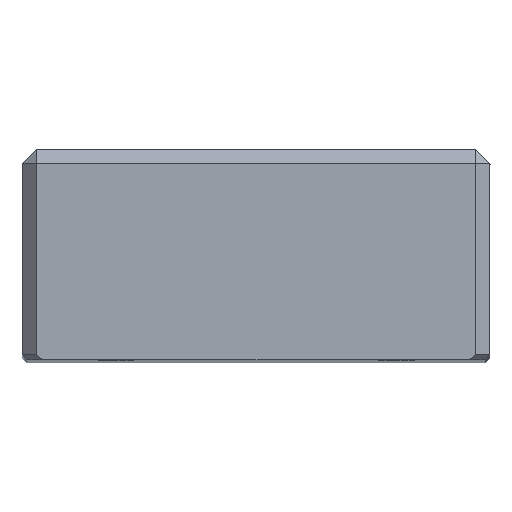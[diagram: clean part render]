
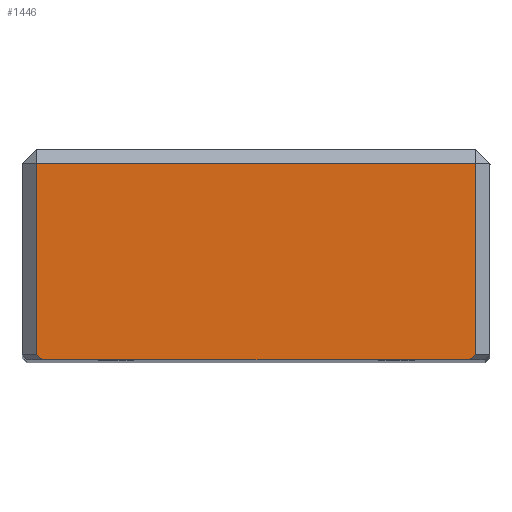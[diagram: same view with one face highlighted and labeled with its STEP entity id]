
A CAD part, top view. The second image highlights one B-rep face of the part: STEP entity #1446.
In plain terms, the highlighted planar face has unit normal (0, 0, 1).
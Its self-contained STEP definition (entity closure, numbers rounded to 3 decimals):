
#1403=AXIS2_PLACEMENT_3D('Plane Axis2P3D',#1400,#1401,#1402) ;
#632=CARTESIAN_POINT('Vertex',(-47.,-3.,0.)) ;
#635=CARTESIAN_POINT('Line Origine',(0.,-3.,0.)) ;
#639=CARTESIAN_POINT('Vertex',(47.,-3.,0.)) ;
#1400=CARTESIAN_POINT('Axis2P3D Location',(50.,0.,0.)) ;
#1405=CARTESIAN_POINT('Line Origine',(46.293,-44.5,0.)) ;
#1409=CARTESIAN_POINT('Vertex',(47.,-44.,0.)) ;
#1411=CARTESIAN_POINT('Vertex',(45.586,-45.,0.)) ;
#1414=CARTESIAN_POINT('Line Origine',(47.,-23.5,0.)) ;
#1419=CARTESIAN_POINT('Line Origine',(-47.,-23.5,0.)) ;
#1423=CARTESIAN_POINT('Vertex',(-47.,-44.,0.)) ;
#1426=CARTESIAN_POINT('Line Origine',(-46.293,-44.5,0.)) ;
#1430=CARTESIAN_POINT('Vertex',(-45.586,-45.,0.)) ;
#1433=CARTESIAN_POINT('Line Origine',(0.,-45.,0.)) ;
#636=DIRECTION('Vector Direction',(1.,0.,0.)) ;
#1401=DIRECTION('Axis2P3D Direction',(0.,0.,1.)) ;
#1402=DIRECTION('Axis2P3D XDirection',(-1.,0.,0.)) ;
#1406=DIRECTION('Vector Direction',(0.816,0.577,0.)) ;
#1415=DIRECTION('Vector Direction',(0.,-1.,0.)) ;
#1420=DIRECTION('Vector Direction',(0.,1.,0.)) ;
#1427=DIRECTION('Vector Direction',(0.816,-0.577,0.)) ;
#1434=DIRECTION('Vector Direction',(1.,0.,0.)) ;
#637=VECTOR('Line Direction',#636,1.) ;
#1407=VECTOR('Line Direction',#1406,1.) ;
#1416=VECTOR('Line Direction',#1415,1.) ;
#1421=VECTOR('Line Direction',#1420,1.) ;
#1428=VECTOR('Line Direction',#1427,1.) ;
#1435=VECTOR('Line Direction',#1434,1.) ;
#1439=ORIENTED_EDGE('',*,*,#1413,.F.) ;
#1440=ORIENTED_EDGE('',*,*,#1418,.F.) ;
#1441=ORIENTED_EDGE('',*,*,#641,.F.) ;
#1442=ORIENTED_EDGE('',*,*,#1425,.F.) ;
#1443=ORIENTED_EDGE('',*,*,#1432,.F.) ;
#1444=ORIENTED_EDGE('',*,*,#1437,.T.) ;
#1446=ADVANCED_FACE('MANIFOLD_SOLID_BREP #3238',(#1445),#1404,.T.) ;
#641=EDGE_CURVE('',#633,#640,#638,.T.) ;
#1413=EDGE_CURVE('',#1410,#1412,#1408,.F.) ;
#1418=EDGE_CURVE('',#640,#1410,#1417,.T.) ;
#1425=EDGE_CURVE('',#1424,#633,#1422,.T.) ;
#1432=EDGE_CURVE('',#1431,#1424,#1429,.F.) ;
#1437=EDGE_CURVE('',#1431,#1412,#1436,.T.) ;
#1438=EDGE_LOOP('',(#1439,#1440,#1441,#1442,#1443,#1444)) ;
#1445=FACE_OUTER_BOUND('',#1438,.T.) ;
#638=LINE('Line',#635,#637) ;
#1408=LINE('Line',#1405,#1407) ;
#1417=LINE('Line',#1414,#1416) ;
#1422=LINE('Line',#1419,#1421) ;
#1429=LINE('Line',#1426,#1428) ;
#1436=LINE('Line',#1433,#1435) ;
#1404=PLANE('Plane',#1403) ;
#633=VERTEX_POINT('',#632) ;
#640=VERTEX_POINT('',#639) ;
#1410=VERTEX_POINT('',#1409) ;
#1412=VERTEX_POINT('',#1411) ;
#1424=VERTEX_POINT('',#1423) ;
#1431=VERTEX_POINT('',#1430) ;
